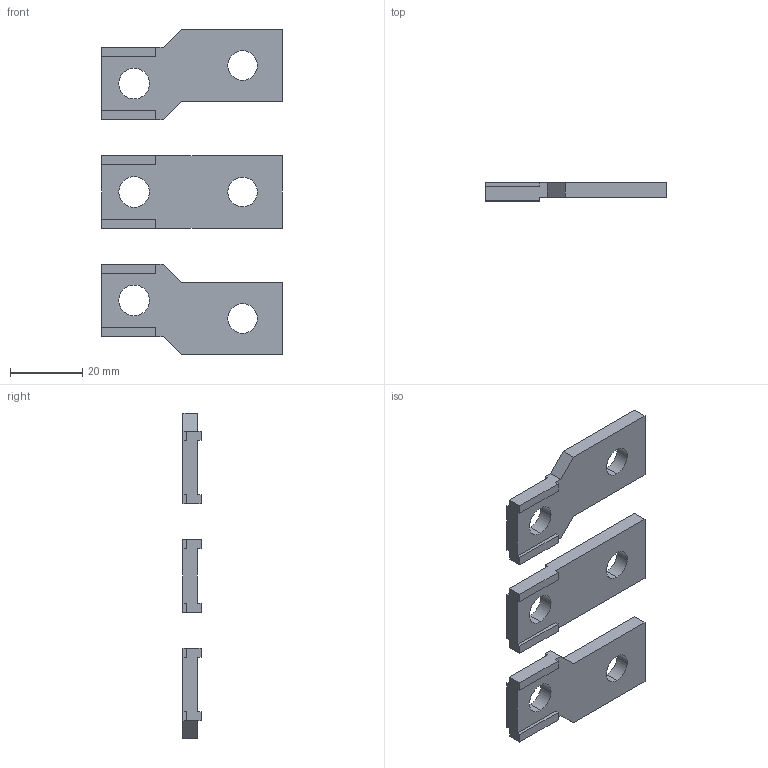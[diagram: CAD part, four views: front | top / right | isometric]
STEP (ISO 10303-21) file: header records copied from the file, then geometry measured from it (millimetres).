
FILE_DESCRIPTION (( 'STEP AP203' ), '1' );
FILE_NAME ('BE ACW100...160.STEP', '2021-11-10T12:32:54', ( '' ), ( '' ), 'SwSTEP 2.0', 'SolidWorks 2018', '' );
FILE_SCHEMA (( 'CONFIG_CONTROL_DESIGN' ));
Length unit declared in the file: millimetre
Products named in the file (1): BE ACW100...160
Bounding box: 50 x 5 x 90 mm (x, y, z)
Volume: 10685.3 mm3; surface area: 7895.4 mm2
Topology: 3 solids, 3 shells, 74 faces, 204 edges, 136 vertices
Faces by surface type: plane 62, cylinder 12
Entity records: 2429 total; most frequent: CARTESIAN_POINT 415, ORIENTED_EDGE 408, DIRECTION 378, EDGE_CURVE 204, VECTOR 180, LINE 180, VERTEX_POINT 136, AXIS2_PLACEMENT_3D 99
